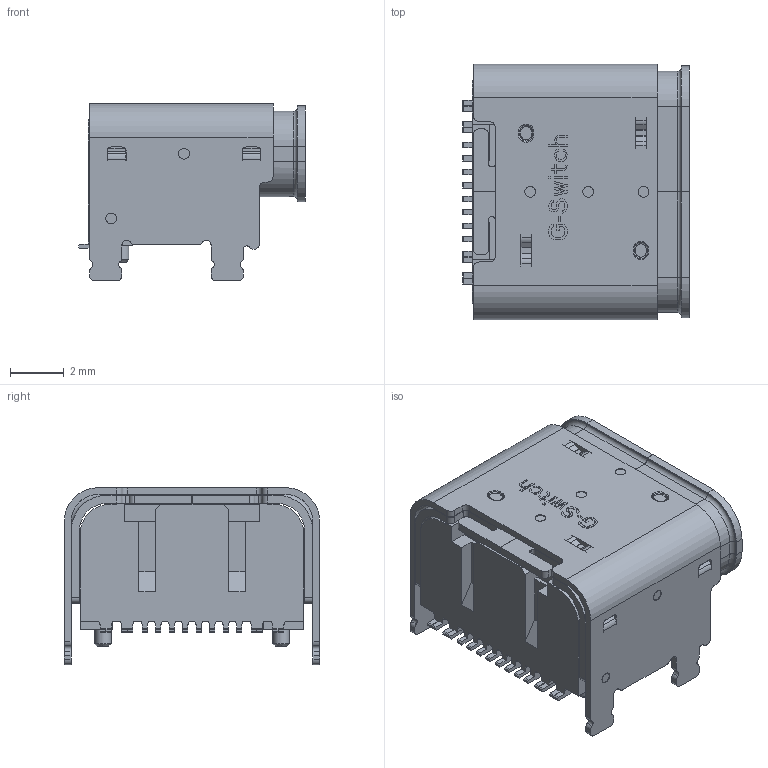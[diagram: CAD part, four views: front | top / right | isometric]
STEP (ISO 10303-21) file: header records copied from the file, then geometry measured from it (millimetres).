
FILE_DESCRIPTION((''),'2;1');
FILE_NAME('GT-USB-7016D_ASM','2023-05-29T',('WYH'),(''),'PRO/ENGINEER BY PARAMETRIC TECHNOLOGY CORPORATION, 2013040','PRO/ENGINEER BY PARAMETRIC TECHNOLOGY CORPORATION, 2013040','');
FILE_SCHEMA(('CONFIG_CONTROL_DESIGN'));
Length unit declared in the file: millimetre
Products named in the file (1): GT-USB-7016D_ASM
Bounding box: 8.41 x 9.47 x 6.58 mm (x, y, z)
Surface area: 843.5 mm2
Topology: 9 solids, 10 shells, 1177 faces, 3543 edges, 2331 vertices
Faces by surface type: plane 841, cylinder 304, torus 24, cone 8
Entity records: 39790 total; most frequent: CARTESIAN_POINT 7490, ORIENTED_EDGE 6930, DIRECTION 6479, EDGE_CURVE 3543, VECTOR 2753, LINE 2753, VERTEX_POINT 2331, AXIS2_PLACEMENT_3D 1863
